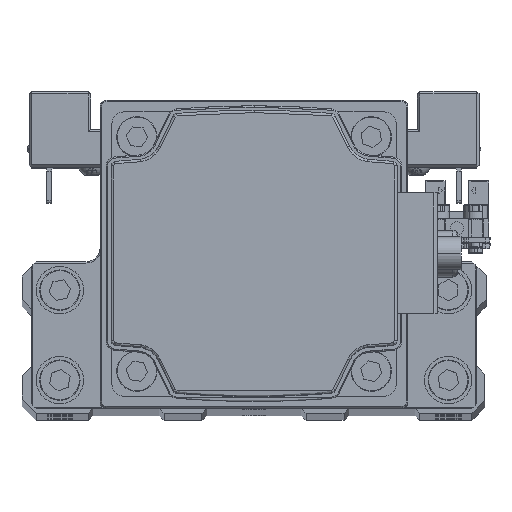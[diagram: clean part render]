
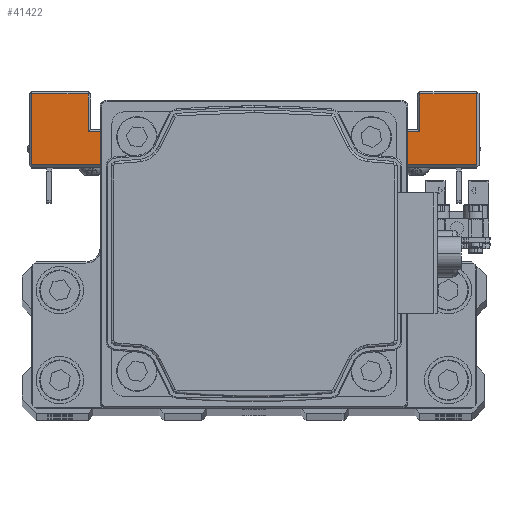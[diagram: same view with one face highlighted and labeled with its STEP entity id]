
A CAD part, top view. The second image highlights one B-rep face of the part: STEP entity #41422.
In plain terms, the highlighted planar face has unit normal (0, 0, 1) as drawn and (1, 0, 0) by its records, which use the part's own axes.
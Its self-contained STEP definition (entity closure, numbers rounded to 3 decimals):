
#344 = EDGE_CURVE ( 'NONE', #8917, #7434, #30048, .T. ) ;
#679 = CARTESIAN_POINT ( 'NONE',  ( 47., 8., -47. ) ) ;
#890 = ORIENTED_EDGE ( 'NONE', *, *, #27022, .T. ) ;
#2293 = VERTEX_POINT ( 'NONE', #22529 ) ;
#3947 = ORIENTED_EDGE ( 'NONE', *, *, #4179, .T. ) ;
#4179 = EDGE_CURVE ( 'NONE', #14190, #2293, #11103, .T. ) ;
#4620 = VECTOR ( 'NONE', #31870, 1000. ) ;
#5042 = CARTESIAN_POINT ( 'NONE',  ( 47., 7.5, -47. ) ) ;
#5516 = VECTOR ( 'NONE', #25134, 1000. ) ;
#5713 = LINE ( 'NONE', #18788, #4620 ) ;
#5800 = EDGE_CURVE ( 'NONE', #30136, #17066, #5713, .T. ) ;
#6366 = CARTESIAN_POINT ( 'NONE',  ( 47., 15., -35. ) ) ;
#6823 = CARTESIAN_POINT ( 'NONE',  ( 47., 23., 35. ) ) ;
#7308 = CARTESIAN_POINT ( 'NONE',  ( 47., 23., -47. ) ) ;
#7434 = VERTEX_POINT ( 'NONE', #37653 ) ;
#7451 = LINE ( 'NONE', #20509, #8429 ) ;
#7736 = CARTESIAN_POINT ( 'NONE',  ( 47., 23., -20. ) ) ;
#8429 = VECTOR ( 'NONE', #33609, 1000. ) ;
#8791 = DIRECTION ( 'NONE',  ( 0., 0., 1. ) ) ;
#8917 = VERTEX_POINT ( 'NONE', #16546 ) ;
#9406 = VERTEX_POINT ( 'NONE', #13693 ) ;
#9446 = VECTOR ( 'NONE', #41616, 1000. ) ;
#9867 = EDGE_CURVE ( 'NONE', #23717, #30136, #15396, .T. ) ;
#11103 = LINE ( 'NONE', #24172, #22310 ) ;
#11227 = CARTESIAN_POINT ( 'NONE',  ( 47., 7.5, -20. ) ) ;
#11357 = DIRECTION ( 'NONE',  ( 0., 1., 0. ) ) ;
#11718 = VECTOR ( 'NONE', #11357, 1000. ) ;
#12012 = PLANE ( 'NONE',  #38619 ) ;
#12071 = CARTESIAN_POINT ( 'NONE',  ( 47., 15., -20. ) ) ;
#12169 = ORIENTED_EDGE ( 'NONE', *, *, #38936, .T. ) ;
#12245 = EDGE_CURVE ( 'NONE', #42264, #35578, #37142, .T. ) ;
#12776 = VECTOR ( 'NONE', #42071, 1000. ) ;
#12790 = CARTESIAN_POINT ( 'NONE',  ( 47., 8., 20. ) ) ;
#13306 = CARTESIAN_POINT ( 'NONE',  ( 47., 15., 35. ) ) ;
#13693 = CARTESIAN_POINT ( 'NONE',  ( 47., 8., 47. ) ) ;
#13736 = DIRECTION ( 'NONE',  ( 0., 0., -1. ) ) ;
#14190 = VERTEX_POINT ( 'NONE', #37006 ) ;
#15180 = EDGE_CURVE ( 'NONE', #39855, #42264, #27634, .T. ) ;
#15396 = LINE ( 'NONE', #28463, #9446 ) ;
#15835 = LINE ( 'NONE', #28912, #12776 ) ;
#16546 = CARTESIAN_POINT ( 'NONE',  ( 47., 8., -20. ) ) ;
#16824 = EDGE_CURVE ( 'NONE', #35578, #9406, #7451, .T. ) ;
#17066 = VERTEX_POINT ( 'NONE', #6366 ) ;
#17408 = ORIENTED_EDGE ( 'NONE', *, *, #344, .T. ) ;
#17953 = VECTOR ( 'NONE', #24285, 1000. ) ;
#18113 = DIRECTION ( 'NONE',  ( 0., 1., 0. ) ) ;
#18621 = VECTOR ( 'NONE', #25849, 1000. ) ;
#18788 = CARTESIAN_POINT ( 'NONE',  ( 47., 7.5, -35. ) ) ;
#19599 = CARTESIAN_POINT ( 'NONE',  ( 47., 8., 20. ) ) ;
#20509 = CARTESIAN_POINT ( 'NONE',  ( 47., 7.5, 47. ) ) ;
#20806 = DIRECTION ( 'NONE',  ( 0., 0., 1. ) ) ;
#21277 = EDGE_LOOP ( 'NONE', ( #30438, #17408, #890, #32899, #40836, #33739, #40315, #40883, #23374, #12169, #41772, #3947 ) ) ;
#22310 = VECTOR ( 'NONE', #37322, 1000. ) ;
#22529 = CARTESIAN_POINT ( 'NONE',  ( 47., -7.5, -20. ) ) ;
#23374 = ORIENTED_EDGE ( 'NONE', *, *, #16824, .T. ) ;
#23717 = VERTEX_POINT ( 'NONE', #7308 ) ;
#24172 = CARTESIAN_POINT ( 'NONE',  ( 47., -7.5, -20. ) ) ;
#24285 = DIRECTION ( 'NONE',  ( 0., -1., 0. ) ) ;
#25078 = CARTESIAN_POINT ( 'NONE',  ( 47., 7.5, -20. ) ) ;
#25134 = DIRECTION ( 'NONE',  ( 0., 0., 1. ) ) ;
#25443 = VECTOR ( 'NONE', #20806, 1000. ) ;
#25589 = VECTOR ( 'NONE', #18113, 1000. ) ;
#25849 = DIRECTION ( 'NONE',  ( 0., 0., -1. ) ) ;
#27022 = EDGE_CURVE ( 'NONE', #7434, #23717, #34428, .T. ) ;
#27483 = CARTESIAN_POINT ( 'NONE',  ( 47., 23., 47. ) ) ;
#27634 = LINE ( 'NONE', #40797, #11718 ) ;
#28463 = CARTESIAN_POINT ( 'NONE',  ( 47., 23., -20. ) ) ;
#28912 = CARTESIAN_POINT ( 'NONE',  ( 47., 7.5, 20. ) ) ;
#29751 = EDGE_CURVE ( 'NONE', #41800, #14190, #15835, .T. ) ;
#30048 = LINE ( 'NONE', #679, #32618 ) ;
#30136 = VERTEX_POINT ( 'NONE', #41807 ) ;
#30438 = ORIENTED_EDGE ( 'NONE', *, *, #35583, .F. ) ;
#31870 = DIRECTION ( 'NONE',  ( 0., -1., 0. ) ) ;
#32263 = EDGE_CURVE ( 'NONE', #17066, #39855, #41504, .T. ) ;
#32618 = VECTOR ( 'NONE', #13736, 1000. ) ;
#32899 = ORIENTED_EDGE ( 'NONE', *, *, #9867, .T. ) ;
#33609 = DIRECTION ( 'NONE',  ( 0., -1., 0. ) ) ;
#33739 = ORIENTED_EDGE ( 'NONE', *, *, #32263, .T. ) ;
#34428 = LINE ( 'NONE', #5042, #25589 ) ;
#35578 = VERTEX_POINT ( 'NONE', #27483 ) ;
#35583 = EDGE_CURVE ( 'NONE', #8917, #2293, #40659, .T. ) ;
#37006 = CARTESIAN_POINT ( 'NONE',  ( 47., -7.5, 20. ) ) ;
#37142 = LINE ( 'NONE', #7736, #25443 ) ;
#37322 = DIRECTION ( 'NONE',  ( 0., 0., -1. ) ) ;
#37653 = CARTESIAN_POINT ( 'NONE',  ( 47., 8., -47. ) ) ;
#38232 = DIRECTION ( 'NONE',  ( -1., 0., 0. ) ) ;
#38619 = AXIS2_PLACEMENT_3D ( 'NONE', #25078, #38232, #8791 ) ;
#38936 = EDGE_CURVE ( 'NONE', #9406, #41800, #42233, .T. ) ;
#39855 = VERTEX_POINT ( 'NONE', #13306 ) ;
#40315 = ORIENTED_EDGE ( 'NONE', *, *, #15180, .T. ) ;
#40659 = LINE ( 'NONE', #11227, #17953 ) ;
#40797 = CARTESIAN_POINT ( 'NONE',  ( 47., 7.5, 35. ) ) ;
#40836 = ORIENTED_EDGE ( 'NONE', *, *, #5800, .T. ) ;
#40883 = ORIENTED_EDGE ( 'NONE', *, *, #12245, .T. ) ;
#41422 = ADVANCED_FACE ( 'NONE', ( #41448 ), #12012, .F. ) ;
#41448 = FACE_OUTER_BOUND ( 'NONE', #21277, .T. ) ;
#41504 = LINE ( 'NONE', #12071, #5516 ) ;
#41616 = DIRECTION ( 'NONE',  ( 0., 0., 1. ) ) ;
#41772 = ORIENTED_EDGE ( 'NONE', *, *, #29751, .T. ) ;
#41800 = VERTEX_POINT ( 'NONE', #19599 ) ;
#41807 = CARTESIAN_POINT ( 'NONE',  ( 47., 23., -35. ) ) ;
#42071 = DIRECTION ( 'NONE',  ( 0., -1., 0. ) ) ;
#42233 = LINE ( 'NONE', #12790, #18621 ) ;
#42264 = VERTEX_POINT ( 'NONE', #6823 ) ;
